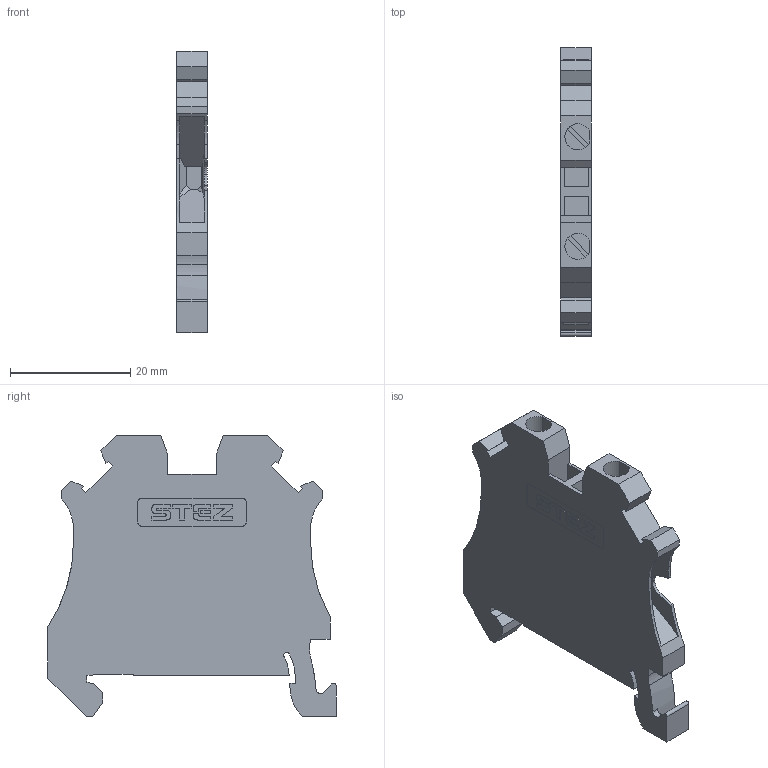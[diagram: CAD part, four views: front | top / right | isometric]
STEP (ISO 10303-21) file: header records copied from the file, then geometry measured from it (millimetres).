
FILE_DESCRIPTION(('TFLEX Exchange Step'),'2;1');
FILE_NAME('11000004_KHB_2,5-2-Ч.stp', '2023-10-03T08:46:05+03:00',('apanin'),('Unknown organisation'),'TFLEX Exchange 2023.0','T-FLEX CAD','Unknown authorisation');
FILE_SCHEMA( ('AUTOMOTIVE_DESIGN { 1 0 10303 214 1 1 1 1 }') );
Length unit declared in the file: millimetre
Products named in the file (1): Тело_1 - 1:1
Bounding box: 5.15 x 48 x 46.85 mm (x, y, z)
Volume: 6974.9 mm3; surface area: 5454.1 mm2
Topology: 1 solids, 1 shells, 368 faces, 1069 edges, 712 vertices
Faces by surface type: cylinder 191, plane 177
Entity records: 12288 total; most frequent: CARTESIAN_POINT 2193, DIRECTION 2163, ORIENTED_EDGE 2138, EDGE_CURVE 1069, AXIS2_PLACEMENT_3D 768, VERTEX_POINT 712, VECTOR 627, LINE 627
